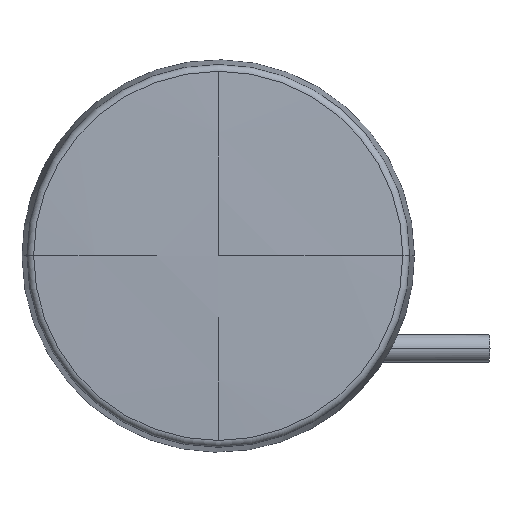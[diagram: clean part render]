
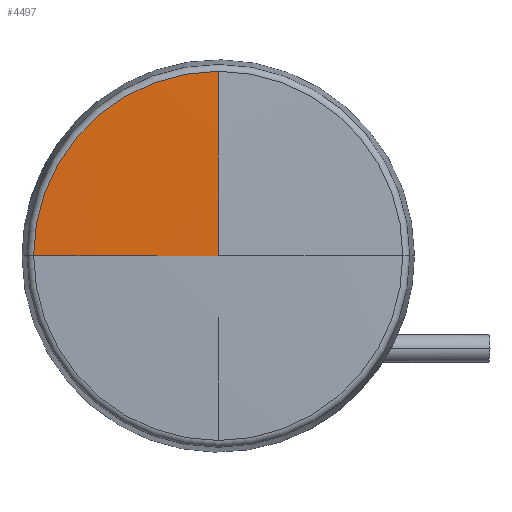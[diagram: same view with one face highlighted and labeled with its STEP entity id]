
A CAD part, top view. The second image highlights one B-rep face of the part: STEP entity #4497.
In plain terms, the highlighted spherical face has radius 900 mm.
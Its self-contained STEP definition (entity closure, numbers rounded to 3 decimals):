
#4430=AXIS2_PLACEMENT_3D('Circle Axis2P3D',#4428,#4429,$) ;
#4478=AXIS2_PLACEMENT_3D('Sphere Axis2P3D',#4475,#4476,#4477) ;
#4482=AXIS2_PLACEMENT_3D('Circle Axis2P3D',#4480,#4481,$) ;
#4489=AXIS2_PLACEMENT_3D('Circle Axis2P3D',#4487,#4488,$) ;
#4425=CARTESIAN_POINT('Vertex',(-39.041,0.,21.044)) ;
#4428=CARTESIAN_POINT('Axis2P3D Location',(0.,0.,21.044)) ;
#4432=CARTESIAN_POINT('Vertex',(0.,39.041,21.044)) ;
#4475=CARTESIAN_POINT('Axis2P3D Location',(0.,0.,-878.109)) ;
#4480=CARTESIAN_POINT('Axis2P3D Location',(0.,0.,-878.109)) ;
#4484=CARTESIAN_POINT('Vertex',(0.,0.,21.891)) ;
#4487=CARTESIAN_POINT('Axis2P3D Location',(0.,0.,-878.109)) ;
#4429=DIRECTION('Axis2P3D Direction',(0.,0.,-1.)) ;
#4476=DIRECTION('Axis2P3D Direction',(0.,0.,1.)) ;
#4477=DIRECTION('Axis2P3D XDirection',(0.,1.,0.)) ;
#4481=DIRECTION('Axis2P3D Direction',(0.,1.,0.)) ;
#4488=DIRECTION('Axis2P3D Direction',(1.,0.,0.)) ;
#4493=ORIENTED_EDGE('',*,*,#4486,.F.) ;
#4494=ORIENTED_EDGE('',*,*,#4491,.F.) ;
#4495=ORIENTED_EDGE('',*,*,#4434,.T.) ;
#4497=ADVANCED_FACE('BASE CAVITY 1',(#4496),#4479,.T.) ;
#4431=CIRCLE('generated circle',#4430,39.041) ;
#4483=CIRCLE('generated circle',#4482,900.) ;
#4490=CIRCLE('generated circle',#4489,900.) ;
#4434=EDGE_CURVE('',#4433,#4426,#4431,.F.) ;
#4486=EDGE_CURVE('',#4485,#4426,#4483,.F.) ;
#4491=EDGE_CURVE('',#4433,#4485,#4490,.T.) ;
#4492=EDGE_LOOP('',(#4493,#4494,#4495)) ;
#4496=FACE_OUTER_BOUND('',#4492,.T.) ;
#4479=SPHERICAL_SURFACE('',#4478,900.) ;
#4426=VERTEX_POINT('',#4425) ;
#4433=VERTEX_POINT('',#4432) ;
#4485=VERTEX_POINT('',#4484) ;
